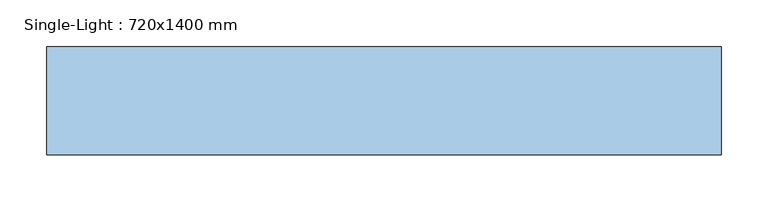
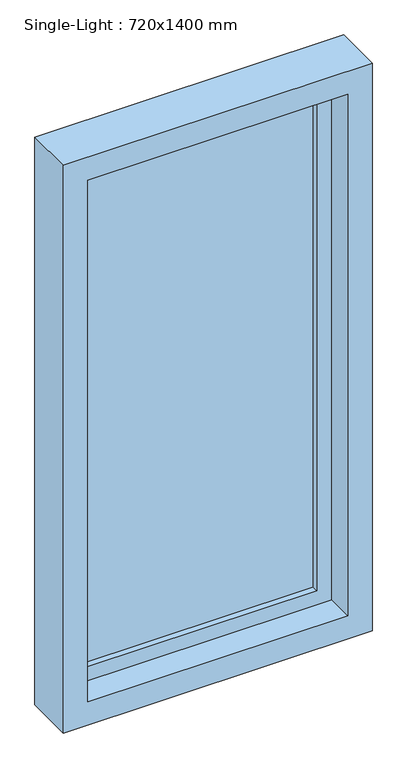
"""IFC4 building model written with IfcOpenShell, lengths in millimetres: window geometry, Single-Light : 720x1400 mm."""

from ifc_helpers import new_model, si_unit, frame, origin, place, context, project, spatial, polyline, outline, extrude, faceted_brep, source, transform, mapped, element, save


def single_light_720x1400_mm_50d61ae6(model_context):
    return source(origin(), model_context, "Body", "SolidModel", [
        extrude(outline(polyline([(2158.0, -318.0), (842.0, -318.0), (842.0, 318.0), (2158.0, 318.0), (2158.0, -318.0)]), holes=[polyline([(2108.0, 268.0), (892.0, 268.0), (892.0, -268.0), (2108.0, -268.0), (2108.0, 268.0)])]), frame((0.0, 140.0, 0.0), z_axis=(0.0, 1.0, 0.0), x_axis=(0.0, 0.0, 1.0)), (0.0, 0.0, 1.0), 50.0),
        faceted_brep([(-360.0, 75.0, 800.0), (-360.0, 190.0, 800.0), (360.0, 190.0, 800.0), (360.0, 75.0, 800.0), (360.0, 190.0, 2200.0), (360.0, 75.0, 2200.0), (-360.0, 190.0, 2200.0), (318.0, 190.0, 2158.0), (-318.0, 190.0, 2158.0), (-318.0, 190.0, 842.0), (318.0, 190.0, 842.0), (-360.0, 75.0, 2200.0), (303.0, 75.0, 857.0), (-303.0, 75.0, 857.0), (-303.0, 75.0, 2143.0), (303.0, 75.0, 2143.0), (-303.0, 140.0, 857.0), (303.0, 140.0, 857.0), (303.0, 140.0, 2143.0), (318.0, 140.0, 842.0), (-318.0, 140.0, 842.0), (-318.0, 140.0, 2158.0), (318.0, 140.0, 2158.0), (-303.0, 140.0, 2143.0)], [[[0, 1, 2, 3]], [[3, 2, 4, 5]], [[2, 1, 6, 4], [7, 8, 9, 10]], [[5, 11, 0, 3], [12, 13, 14, 15]], [[16, 13, 12, 17]], [[17, 12, 15, 18]], [[19, 20, 21, 22], [18, 23, 16, 17]], [[9, 20, 19, 10]], [[10, 19, 22, 7]], [[11, 6, 1, 0]], [[23, 14, 13, 16]], [[8, 21, 20, 9]], [[5, 4, 6, 11]], [[18, 15, 14, 23]], [[7, 22, 21, 8]]]),
        extrude(outline(polyline([(-268.0, 176.0), (268.0, 176.0), (268.0, 154.0), (-268.0, 154.0), (-268.0, 176.0)])), frame((0.0, 0.0, 892.0), z_axis=(0.0, 0.0, 1.0), x_axis=(1.0, 0.0, 0.0)), (0.0, 0.0, 1.0), 1216.0),
    ])


if __name__ == "__main__":
    model = new_model("IFC4")
    model_context = context("Model", 3, world=origin())
    ifc_project = project(units=[si_unit("LENGTHUNIT", "METRE", prefix="MILLI")], contexts=[model_context])
    site = spatial("IfcSite", under=ifc_project)
    building = spatial("IfcBuilding", under=site)
    placement = place(None, origin())
    single_light_720x1400_mm_shape = single_light_720x1400_mm_50d61ae6(model_context)
    element("IfcWindow", 1, ObjectType="Single-Light : 720x1400 mm", at=placement, inside=building, context=model_context, shape_type="MappedRepresentation", body=[
        mapped(single_light_720x1400_mm_shape, transform((0.0, 0.0, 0.0), x_axis=(1.0, 0.0, 0.0), y_axis=(0.0, 1.0, 0.0), z_axis=(0.0, 0.0, 1.0))),
    ])
    save(model, "model.ifc")
